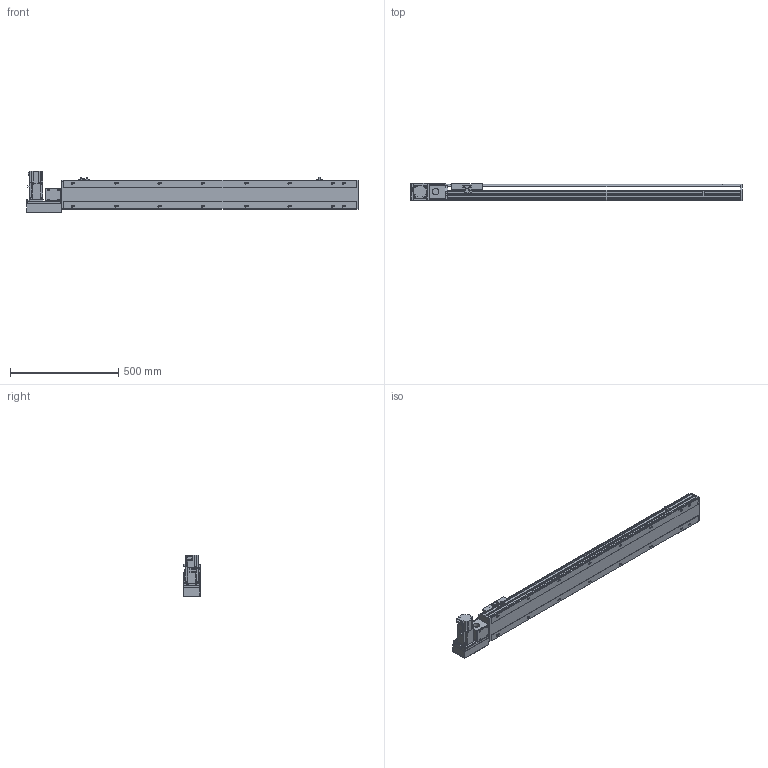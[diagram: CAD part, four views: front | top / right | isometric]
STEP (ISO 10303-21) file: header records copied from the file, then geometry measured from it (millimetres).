
FILE_DESCRIPTION(/* description */ ('STEP AP214'),/* implementation_level */ '2;1');
FILE_NAME(/* name */ 'PBS140-P40-S1100-L-T40-C1-N(0)',/* time_stamp */ '2022-06-06T03:01:41+02:00',/* author */ ('License CC BY-ND 4.0'),/* organization */ ('CADENAS'),/* preprocessor_version */ 'ST-DEVELOPER v18.102',/* originating_system */ 'PARTsolutions',/* authorisation */ ' ');
FILE_SCHEMA (('AUTOMOTIVE_DESIGN {1 0 10303 214 3 1 1}'));
Length unit declared in the file: millimetre
Products named in the file (7): PBS140-P40-S1100-L-T40-C1-N(0); PBS140_sensor; PBS140_plant; PBS140_sliser; T40-p1; PBS140T-L_motors; PBS140-S1100()_body
Assembly tree (8 placements, depth 2):
  PBS140-P40-S1100-L-T40-C1-N(0)
    PBS140_sensor  x3
    PBS140_plant
    PBS140_sliser
    T40-p1
    PBS140T-L_motors
    PBS140-S1100()_body
Bounding box: 1533 x 80.5 x 189.7 mm (x, y, z)
Volume: 6930517.9 mm3; surface area: 1209695 mm2
Topology: 8 solids, 8 shells, 1075 faces, 2836 edges, 1853 vertices
Faces by surface type: plane 692, cylinder 331, cone 42, sphere 8, torus 2
Full cylindrical faces by diameter (mm): 3.242 x4, 4 x2, 4.134 x4, 4.4 x8, 4.5 x2, 4.8 x4, 4.917 x24, 5.5 x7, 6 x2, 7 x18, 7.5 x8, 8 x12, 8.5 x4, 10.5 x16, 14 x1, 30 x2, 50 x2
Entity records: 30645 total; most frequent: CARTESIAN_POINT 5665, DIRECTION 5197, ORIENTED_EDGE 4912, EDGE_CURVE 2456, AXIS2_PLACEMENT_3D 1807, VERTEX_POINT 1701, LINE 1583, VECTOR 1583
